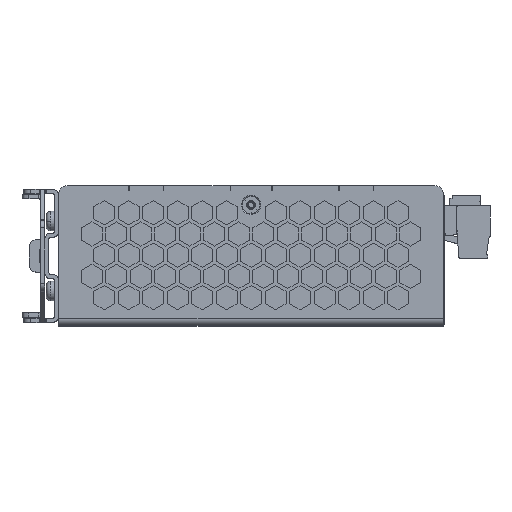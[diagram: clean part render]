
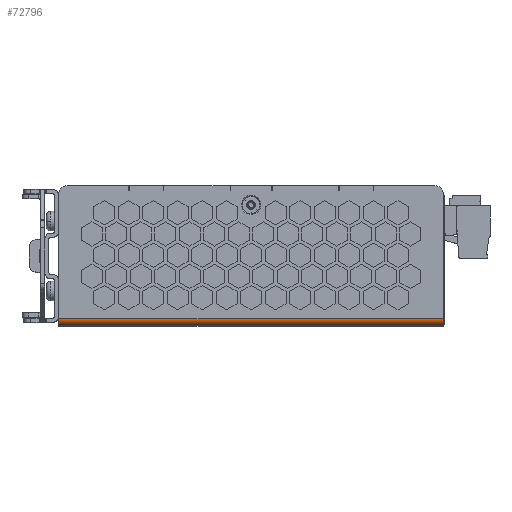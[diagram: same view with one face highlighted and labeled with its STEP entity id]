
A CAD part, top view. The second image highlights one B-rep face of the part: STEP entity #72796.
In plain terms, the highlighted cylindrical face has radius 2 mm (diameter 4 mm), a partial arc.
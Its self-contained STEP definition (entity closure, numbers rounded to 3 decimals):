
#4406 = VERTEX_POINT ( 'NONE', #63004 ) ;
#13727 = VECTOR ( 'NONE', #51839, 1000. ) ;
#14331 = VERTEX_POINT ( 'NONE', #76441 ) ;
#15536 = VECTOR ( 'NONE', #20308, 1000. ) ;
#17482 = ORIENTED_EDGE ( 'NONE', *, *, #34257, .T. ) ;
#19917 = FACE_OUTER_BOUND ( 'NONE', #31104, .T. ) ;
#20308 = DIRECTION ( 'NONE',  ( -1., 0., 0. ) ) ;
#22970 = CARTESIAN_POINT ( 'NONE',  ( 53.5, -20., 55.5 ) ) ;
#24207 = CARTESIAN_POINT ( 'NONE',  ( -55., -18., 57.5 ) ) ;
#30350 = ORIENTED_EDGE ( 'NONE', *, *, #34677, .F. ) ;
#31104 = EDGE_LOOP ( 'NONE', ( #17482, #53099, #51006, #30350 ) ) ;
#31282 = EDGE_CURVE ( 'NONE', #14331, #55884, #72354, .T. ) ;
#33439 = DIRECTION ( 'NONE',  ( 0., -1., 0. ) ) ;
#33630 = DIRECTION ( 'NONE',  ( 1., 0., 0. ) ) ;
#33646 = CARTESIAN_POINT ( 'NONE',  ( -55., -18., 55.5 ) ) ;
#34257 = EDGE_CURVE ( 'NONE', #4406, #14331, #43140, .T. ) ;
#34370 = EDGE_CURVE ( 'NONE', #55884, #44238, #69472, .T. ) ;
#34677 = EDGE_CURVE ( 'NONE', #4406, #44238, #94825, .T. ) ;
#36399 = DIRECTION ( 'NONE',  ( 0., -1., 0. ) ) ;
#36414 = DIRECTION ( 'NONE',  ( -1., 0., 0. ) ) ;
#36611 = CARTESIAN_POINT ( 'NONE',  ( 55., -18., 55.5 ) ) ;
#43140 = CIRCLE ( 'NONE', #46791, 2. ) ;
#44238 = VERTEX_POINT ( 'NONE', #52125 ) ;
#46394 = AXIS2_PLACEMENT_3D ( 'NONE', #33646, #33630, #33439 ) ;
#46791 = AXIS2_PLACEMENT_3D ( 'NONE', #36611, #36414, #36399 ) ;
#48641 = CYLINDRICAL_SURFACE ( 'NONE', #99247, 2. ) ;
#51006 = ORIENTED_EDGE ( 'NONE', *, *, #34370, .T. ) ;
#51635 = DIRECTION ( 'NONE',  ( 0., -1., 0. ) ) ;
#51839 = DIRECTION ( 'NONE',  ( -1., 0., 0. ) ) ;
#51933 = CARTESIAN_POINT ( 'NONE',  ( 53.5, -18., 57.5 ) ) ;
#52125 = CARTESIAN_POINT ( 'NONE',  ( -55., -20., 55.5 ) ) ;
#53099 = ORIENTED_EDGE ( 'NONE', *, *, #31282, .T. ) ;
#55884 = VERTEX_POINT ( 'NONE', #24207 ) ;
#57661 = DIRECTION ( 'NONE',  ( -1., 0., 0. ) ) ;
#63004 = CARTESIAN_POINT ( 'NONE',  ( 55., -20., 55.5 ) ) ;
#65401 = CARTESIAN_POINT ( 'NONE',  ( 53.5, -18., 55.5 ) ) ;
#69472 = CIRCLE ( 'NONE', #46394, 2. ) ;
#72354 = LINE ( 'NONE', #51933, #13727 ) ;
#72796 = ADVANCED_FACE ( 'NONE', ( #19917 ), #48641, .T. ) ;
#76441 = CARTESIAN_POINT ( 'NONE',  ( 55., -18., 57.5 ) ) ;
#94825 = LINE ( 'NONE', #22970, #15536 ) ;
#99247 = AXIS2_PLACEMENT_3D ( 'NONE', #65401, #57661, #51635 ) ;
